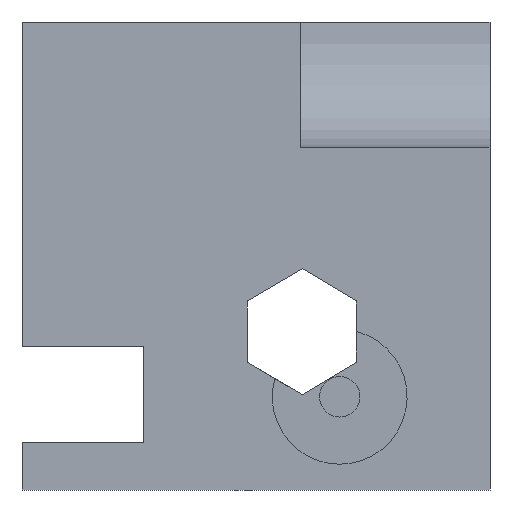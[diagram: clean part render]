
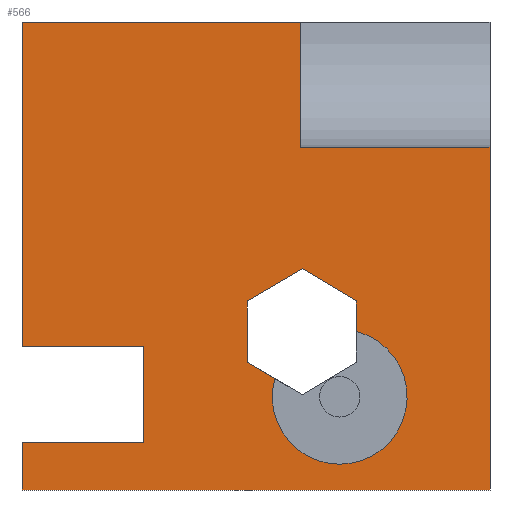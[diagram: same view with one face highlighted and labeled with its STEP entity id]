
A CAD part, front view. The second image highlights one B-rep face of the part: STEP entity #566.
In plain terms, the highlighted planar face has unit normal (0, -1, 0).
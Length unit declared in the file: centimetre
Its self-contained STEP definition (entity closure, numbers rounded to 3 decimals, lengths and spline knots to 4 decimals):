
#6 = EDGE_CURVE ( 'NONE', #182, #279, #502, .T. ) ;
#21 = CARTESIAN_POINT ( 'NONE',  ( 0., 0., 100.8214 ) ) ;
#23 = CARTESIAN_POINT ( 'NONE',  ( 0., 0., 306.9708 ) ) ;
#24 = DIRECTION ( 'NONE',  ( 0., 0., -1. ) ) ;
#27 = CARTESIAN_POINT ( 'NONE',  ( 540.1328, 0., 238.1017 ) ) ;
#28 = DIRECTION ( 'NONE',  ( 0., 0., -1. ) ) ;
#31 = DIRECTION ( 'NONE',  ( 0., 0., -1. ) ) ;
#33 = LINE ( 'NONE', #23, #141 ) ;
#44 = DIRECTION ( 'NONE',  ( 0., 0., -1. ) ) ;
#49 = VECTOR ( 'NONE', #578, 100. ) ;
#50 = CIRCLE ( 'NONE', #812, 144.0584 ) ;
#52 = EDGE_LOOP ( 'NONE', ( #494, #854, #536, #866, #80, #489, #402, #340, #262, #624 ) ) ;
#57 = EDGE_CURVE ( 'NONE', #575, #860, #181, .T. ) ;
#61 = VERTEX_POINT ( 'NONE', #541 ) ;
#73 = CARTESIAN_POINT ( 'NONE',  ( 0., 0., 1000. ) ) ;
#79 = CARTESIAN_POINT ( 'NONE',  ( 598.7305, 0., 473.119 ) ) ;
#80 = ORIENTED_EDGE ( 'NONE', *, *, #715, .T. ) ;
#85 = ORIENTED_EDGE ( 'NONE', *, *, #728, .T. ) ;
#89 = CARTESIAN_POINT ( 'NONE',  ( 480.9997, 0., 403.9305 ) ) ;
#91 = CARTESIAN_POINT ( 'NONE',  ( 480.9997, 0., 272.8533 ) ) ;
#98 = EDGE_CURVE ( 'NONE', #398, #850, #617, .T. ) ;
#141 = VECTOR ( 'NONE', #660, 100. ) ;
#148 = DIRECTION ( 'NONE',  ( 0., 1., 0. ) ) ;
#154 = CARTESIAN_POINT ( 'NONE',  ( 0., 0., 1000. ) ) ;
#168 = CARTESIAN_POINT ( 'NONE',  ( 678.8337, 0., 199.1803 ) ) ;
#172 = VECTOR ( 'NONE', #796, 100. ) ;
#174 = AXIS2_PLACEMENT_3D ( 'NONE', #380, #656, #28 ) ;
#177 = VECTOR ( 'NONE', #515, 100. ) ;
#180 = EDGE_CURVE ( 'NONE', #61, #186, #907, .T. ) ;
#181 = LINE ( 'NONE', #185, #307 ) ;
#182 = VERTEX_POINT ( 'NONE', #154 ) ;
#185 = CARTESIAN_POINT ( 'NONE',  ( 595.9742, 0., 732.8571 ) ) ;
#186 = VERTEX_POINT ( 'NONE', #349 ) ;
#197 = VERTEX_POINT ( 'NONE', #368 ) ;
#206 = DIRECTION ( 'NONE',  ( 0., 0., 1. ) ) ;
#207 = EDGE_CURVE ( 'NONE', #910, #922, #493, .T. ) ;
#216 = ORIENTED_EDGE ( 'NONE', *, *, #827, .T. ) ;
#222 = VECTOR ( 'NONE', #234, 100. ) ;
#234 = DIRECTION ( 'NONE',  ( 0., 0., -1. ) ) ;
#244 = CARTESIAN_POINT ( 'NONE',  ( 0., 0., 0. ) ) ;
#246 = CARTESIAN_POINT ( 'NONE',  ( 258.7926, 0., 306.9708 ) ) ;
#259 = CARTESIAN_POINT ( 'NONE',  ( 480.9997, 0., 403.9305 ) ) ;
#260 = EDGE_CURVE ( 'NONE', #279, #860, #705, .T. ) ;
#262 = ORIENTED_EDGE ( 'NONE', *, *, #180, .T. ) ;
#267 = EDGE_CURVE ( 'NONE', #853, #299, #302, .T. ) ;
#279 = VERTEX_POINT ( 'NONE', #436 ) ;
#285 = ORIENTED_EDGE ( 'NONE', *, *, #344, .F. ) ;
#296 = EDGE_CURVE ( 'NONE', #299, #910, #646, .T. ) ;
#299 = VERTEX_POINT ( 'NONE', #722 ) ;
#302 = LINE ( 'NONE', #89, #406 ) ;
#307 = VECTOR ( 'NONE', #459, 100. ) ;
#318 = DIRECTION ( 'NONE',  ( -0.862, 0., 0.507 ) ) ;
#324 = ORIENTED_EDGE ( 'NONE', *, *, #296, .T. ) ;
#336 = FACE_BOUND ( 'NONE', #842, .T. ) ;
#340 = ORIENTED_EDGE ( 'NONE', *, *, #773, .F. ) ;
#344 = EDGE_CURVE ( 'NONE', #361, #197, #50, .T. ) ;
#348 = VECTOR ( 'NONE', #392, 100. ) ;
#349 = CARTESIAN_POINT ( 'NONE',  ( 0., 0., 0. ) ) ;
#351 = CARTESIAN_POINT ( 'NONE',  ( 0., 0., 1000. ) ) ;
#352 = CARTESIAN_POINT ( 'NONE',  ( 1000., 0., 732.8571 ) ) ;
#360 = DIRECTION ( 'NONE',  ( 0.858, 0., -0.513 ) ) ;
#361 = VERTEX_POINT ( 'NONE', #27 ) ;
#362 = VERTEX_POINT ( 'NONE', #520 ) ;
#368 = CARTESIAN_POINT ( 'NONE',  ( 678.8337, 0., 55.1219 ) ) ;
#369 = EDGE_CURVE ( 'NONE', #186, #362, #881, .T. ) ;
#370 = VECTOR ( 'NONE', #24, 100. ) ;
#374 = LINE ( 'NONE', #735, #874 ) ;
#380 = CARTESIAN_POINT ( 'NONE',  ( 678.8337, 0., 199.1803 ) ) ;
#381 = LINE ( 'NONE', #21, #172 ) ;
#392 = DIRECTION ( 'NONE',  ( 0., 0., 1. ) ) ;
#395 = CARTESIAN_POINT ( 'NONE',  ( 714.354, 0., 403.9305 ) ) ;
#398 = VERTEX_POINT ( 'NONE', #800 ) ;
#402 = ORIENTED_EDGE ( 'NONE', *, *, #98, .F. ) ;
#406 = VECTOR ( 'NONE', #643, 100. ) ;
#409 = ORIENTED_EDGE ( 'NONE', *, *, #207, .T. ) ;
#436 = CARTESIAN_POINT ( 'NONE',  ( 595.9742, 0., 1000. ) ) ;
#442 = LINE ( 'NONE', #730, #370 ) ;
#446 = LINE ( 'NONE', #604, #786 ) ;
#455 = CARTESIAN_POINT ( 'NONE',  ( 595.9742, 0., 732.8571 ) ) ;
#459 = DIRECTION ( 'NONE',  ( -1., 0., 0. ) ) ;
#477 = VERTEX_POINT ( 'NONE', #529 ) ;
#489 = ORIENTED_EDGE ( 'NONE', *, *, #492, .F. ) ;
#492 = EDGE_CURVE ( 'NONE', #850, #477, #33, .T. ) ;
#493 = LINE ( 'NONE', #852, #49 ) ;
#494 = ORIENTED_EDGE ( 'NONE', *, *, #500, .F. ) ;
#500 = EDGE_CURVE ( 'NONE', #575, #362, #374, .T. ) ;
#502 = LINE ( 'NONE', #351, #889 ) ;
#515 = DIRECTION ( 'NONE',  ( 0., 0., 1. ) ) ;
#520 = CARTESIAN_POINT ( 'NONE',  ( 1000., 0., 0. ) ) ;
#529 = CARTESIAN_POINT ( 'NONE',  ( 0., 0., 306.9708 ) ) ;
#533 = EDGE_CURVE ( 'NONE', #197, #922, #919, .T. ) ;
#536 = ORIENTED_EDGE ( 'NONE', *, *, #260, .F. ) ;
#537 = CARTESIAN_POINT ( 'NONE',  ( 714.354, 0., 338.791 ) ) ;
#541 = CARTESIAN_POINT ( 'NONE',  ( 0., 0., 100.8214 ) ) ;
#543 = ORIENTED_EDGE ( 'NONE', *, *, #533, .F. ) ;
#566 = ADVANCED_FACE ( 'NONE', ( #336, #616 ), #704, .F. ) ;
#569 = DIRECTION ( 'NONE',  ( 1., 0., 0. ) ) ;
#572 = VECTOR ( 'NONE', #360, 100. ) ;
#575 = VERTEX_POINT ( 'NONE', #352 ) ;
#578 = DIRECTION ( 'NONE',  ( 0., 0., -1. ) ) ;
#585 = LINE ( 'NONE', #91, #177 ) ;
#604 = CARTESIAN_POINT ( 'NONE',  ( 598.7305, 0., 203.6647 ) ) ;
#609 = VECTOR ( 'NONE', #727, 100. ) ;
#616 = FACE_OUTER_BOUND ( 'NONE', #52, .T. ) ;
#617 = LINE ( 'NONE', #750, #348 ) ;
#624 = ORIENTED_EDGE ( 'NONE', *, *, #369, .T. ) ;
#633 = CARTESIAN_POINT ( 'NONE',  ( 595.9742, 0., 1000. ) ) ;
#643 = DIRECTION ( 'NONE',  ( 0.862, 0., 0.507 ) ) ;
#646 = LINE ( 'NONE', #79, #572 ) ;
#648 = DIRECTION ( 'NONE',  ( 0., -1., 0. ) ) ;
#651 = CARTESIAN_POINT ( 'NONE',  ( 480.9997, 0., 272.8533 ) ) ;
#655 = DIRECTION ( 'NONE',  ( 0., 0., -1. ) ) ;
#656 = DIRECTION ( 'NONE',  ( 0., -1., 0. ) ) ;
#660 = DIRECTION ( 'NONE',  ( -1., 0., 0. ) ) ;
#665 = VECTOR ( 'NONE', #44, 100. ) ;
#671 = VERTEX_POINT ( 'NONE', #651 ) ;
#704 = PLANE ( 'NONE',  #738 ) ;
#705 = LINE ( 'NONE', #633, #222 ) ;
#715 = EDGE_CURVE ( 'NONE', #182, #477, #442, .T. ) ;
#722 = CARTESIAN_POINT ( 'NONE',  ( 598.7305, 0., 473.119 ) ) ;
#727 = DIRECTION ( 'NONE',  ( 1., 0., 0. ) ) ;
#728 = EDGE_CURVE ( 'NONE', #671, #853, #585, .T. ) ;
#730 = CARTESIAN_POINT ( 'NONE',  ( 0., 0., 1000. ) ) ;
#735 = CARTESIAN_POINT ( 'NONE',  ( 1000., 0., 1000. ) ) ;
#738 = AXIS2_PLACEMENT_3D ( 'NONE', #73, #148, #206 ) ;
#750 = CARTESIAN_POINT ( 'NONE',  ( 258.7926, 0., 100.8214 ) ) ;
#773 = EDGE_CURVE ( 'NONE', #61, #398, #381, .T. ) ;
#786 = VECTOR ( 'NONE', #318, 100. ) ;
#796 = DIRECTION ( 'NONE',  ( 1., 0., 0. ) ) ;
#800 = CARTESIAN_POINT ( 'NONE',  ( 258.7926, 0., 100.8214 ) ) ;
#812 = AXIS2_PLACEMENT_3D ( 'NONE', #168, #648, #655 ) ;
#827 = EDGE_CURVE ( 'NONE', #361, #671, #446, .T. ) ;
#836 = ORIENTED_EDGE ( 'NONE', *, *, #267, .T. ) ;
#842 = EDGE_LOOP ( 'NONE', ( #324, #409, #543, #285, #216, #85, #836 ) ) ;
#850 = VERTEX_POINT ( 'NONE', #246 ) ;
#852 = CARTESIAN_POINT ( 'NONE',  ( 714.354, 0., 403.9305 ) ) ;
#853 = VERTEX_POINT ( 'NONE', #259 ) ;
#854 = ORIENTED_EDGE ( 'NONE', *, *, #57, .T. ) ;
#860 = VERTEX_POINT ( 'NONE', #455 ) ;
#866 = ORIENTED_EDGE ( 'NONE', *, *, #6, .F. ) ;
#874 = VECTOR ( 'NONE', #31, 100. ) ;
#881 = LINE ( 'NONE', #244, #609 ) ;
#889 = VECTOR ( 'NONE', #569, 100. ) ;
#895 = CARTESIAN_POINT ( 'NONE',  ( 0., 0., 1000. ) ) ;
#907 = LINE ( 'NONE', #895, #665 ) ;
#910 = VERTEX_POINT ( 'NONE', #395 ) ;
#919 = CIRCLE ( 'NONE', #174, 144.0584 ) ;
#922 = VERTEX_POINT ( 'NONE', #537 ) ;
